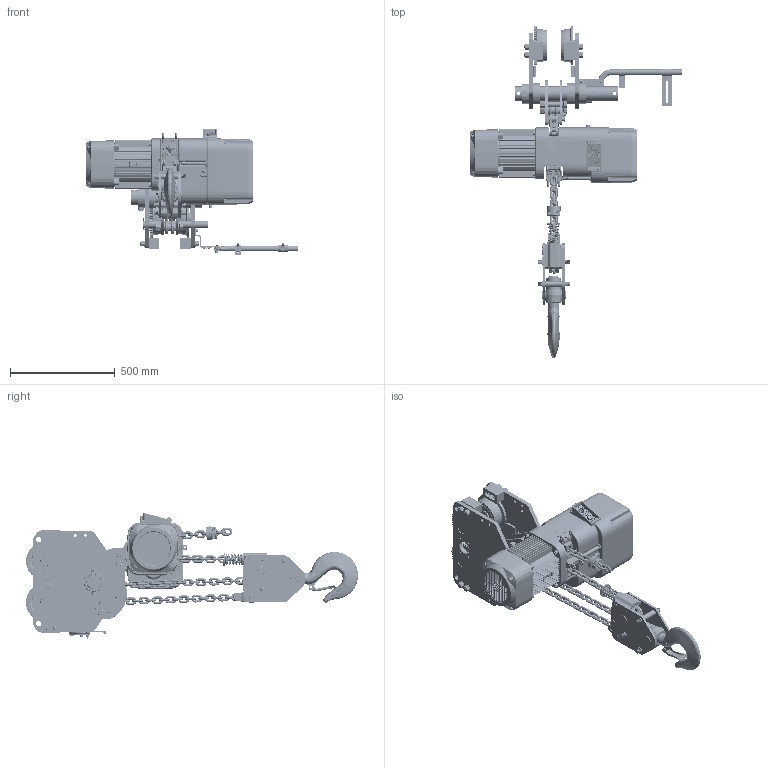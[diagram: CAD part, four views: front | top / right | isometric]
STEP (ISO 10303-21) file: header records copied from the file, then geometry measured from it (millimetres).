
FILE_DESCRIPTION (( 'STEP AP214' ), '1' );
FILE_NAME ('NER2P080SD.STEP', '2026-08-11T12:40:51', ( '' ), ( '' ), 'SwSTEP 2.0', 'SolidWorks 2026', '' );
FILE_SCHEMA (( 'AUTOMOTIVE_DESIGN' ));
Length unit declared in the file: inch
Products named in the file (121): hex nut style 1_am_9093439; 9009448_9009448; ES558003; E6S041075; single coil rectangular section spring washer_bsi_9012711; ER2FS9105; E6S010075_E6S010075; ER1EM9053; basic internal retaining ring_am_J1SR000-00090; ER2HS11211; NER2025SD_For Hi Cap w Container; J1AP2-4001212.SLDASM; ER2HS90031; ER2CS9357; MR1DS9493; C2BA150-90712; ER2ES9107_ER2ES9107; MR1DS9491; ER1HS90161; T3GA1009103; ER2HS90341; MS115075_MS115075; 9091254_9091254; MR1DS9496; ER2HS5051; ER2BHM20I9A5; ER2FS9337; MS161100; MS104075; M6F554010; LCER2025NP; E7SE075S90381; spring lock washer_2_jis_9012715; E6SE075S90622; ER2CS9511; E7SE100S90241; external tooth lock washer_am_PreviewCfg; MR1DS1491; 90912116_90912116; 9009436_9009436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
Assembly tree (328 placements, depth 5):
  NER2P080SD
    PTS080_6" FLANGE
      T3GB1005112
        T3GA1009112
        T3GA1009118
        M6SE100S9114
        T3GA1009103  x2
      T3GA1005111
        T3GA1009111
        M6SE100S9113
        T3GA1009118
        T3GA1009103  x2
      T3G1102075  x2
        T3GA1009102
        6308Z Bearing
        basic internal retaining ring_am_J1SR000-00090
      MS104075  x4
      9047140_9047140  x4
      T5AB0759141  x4
      90912156_90912156  x8
      spring lock washer_2_jis_9012715  x8
      hex nut style 1_am_9093439  x8
      MS115075_MS115075
      MS161100
      MS164075
      9009436_9009436  x2
      T3G1101075  x2
        T3GA1009101
        6308Z Bearing
        basic internal retaining ring_am_J1SR000-00090
      hexagon slotted nut low_1_jis_T3G154075
    NER2080SD
      NER2025SD_For Hi Cap w Container
        ER2FI2104
          ER2FI9104_ER2FI9104
          ER2EI9185_ER2EI9185
          J1AP2-4001212.SLDASM  x4
        ER2FS9103
        ER2FS9101
        ER2FS9105
        ER2ES9107_ER2ES9107
        ER2FS9331
        ER2FS9338
        ER2FS9337
        ER2CS9357
        9012711_9012711  x4
        9091294_9091294  x4
        9091255_9091255  x4
        90912116_90912116  x4
        external tooth lock washer_am_PreviewCfg  x4
        9091254_9091254  x4
        ES127005S
        ER1BS9135
        E3S112003
        E3S111003
        ER2EI4511
          ER2CS9511
          MS561010  x8
          ER2EI2523
          ER2EI2564
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Bounding box: 1013.27 x 1581.06 x 597.87 mm (x, y, z)
Volume: 58467312.2 mm3; surface area: 5850478.2 mm2
Topology: 328 solids, 348 shells, 13000 faces, 33085 edges, 20778 vertices
Faces by surface type: cylinder 4756, plane 4215, cone 1434, torus 1332, bspline 974, sphere 289
Entity records: 306546 total; most frequent: CARTESIAN_POINT 124332, DIRECTION 36831, ORIENTED_EDGE 36694, EDGE_CURVE 18349, AXIS2_PLACEMENT_3D 14567, VERTEX_POINT 11599, EDGE_LOOP 8010, CIRCLE 7729
